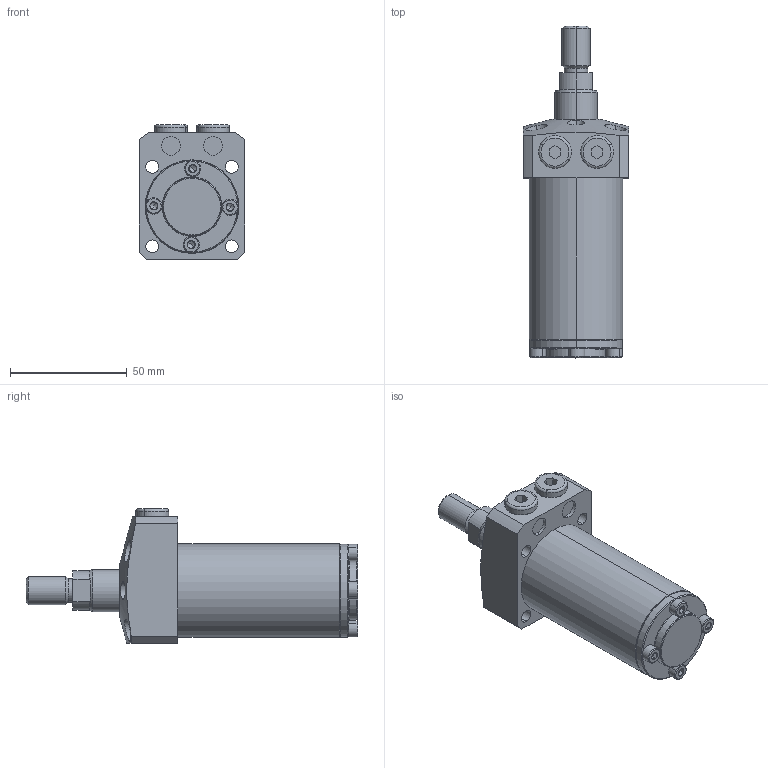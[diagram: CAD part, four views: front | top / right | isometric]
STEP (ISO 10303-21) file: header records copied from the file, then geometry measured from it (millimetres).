
FILE_DESCRIPTION (( 'STEP AP203' ), '1' );
FILE_NAME ('680400-CT-051.step', '2016-11-02T03:18:13', ( 'wxp' ), ( '' ), 'SwSTEP 2.0', 'SolidWorks 2011', '' );
FILE_SCHEMA (( 'CONFIG_CONTROL_DESIGN' ));
Length unit declared in the file: millimetre
Products named in the file (7): 680400-CT-051; 葩璃 680400-15-11^680400-CT-051; 葩璃 680400-CA-51-4^680400-CT-051; 葩璃 680400-CA-51-3^680400-CT-051; 葩璃 680400-15-4^680400-CT-051; 葩璃 680400-15-3^680400-CT-051; 葩璃 680400-CA-51-1^680400-CT-051
Assembly tree (13 placements, depth 2):
  680400-CT-051
    葩璃 680400-CA-51-3^680400-CT-051  x4
    葩璃 680400-15-4^680400-CT-051  x4
    葩璃 680400-15-3^680400-CT-051
    葩璃 680400-15-11^680400-CT-051
    葩璃 680400-CA-51-4^680400-CT-051  x2
    葩璃 680400-CA-51-1^680400-CT-051
Bounding box: 45 x 142 x 57.5 mm (x, y, z)
Volume: 150965.4 mm3; surface area: 35999.9 mm2
Topology: 13 solids, 13 shells, 414 faces, 794 edges, 425 vertices
Faces by surface type: plane 173, cone 120, cylinder 105, torus 16
Entity records: 6876 total; most frequent: CARTESIAN_POINT 1573, DIRECTION 1011, ORIENTED_EDGE 824, AXIS2_PLACEMENT_3D 421, EDGE_CURVE 412, VERTEX_POINT 243, EDGE_LOOP 239, CIRCLE 203
